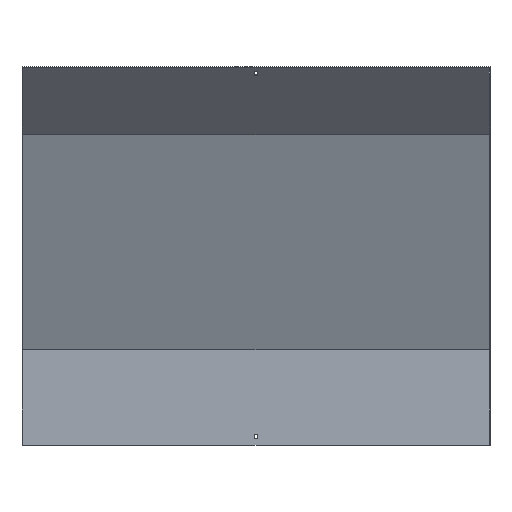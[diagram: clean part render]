
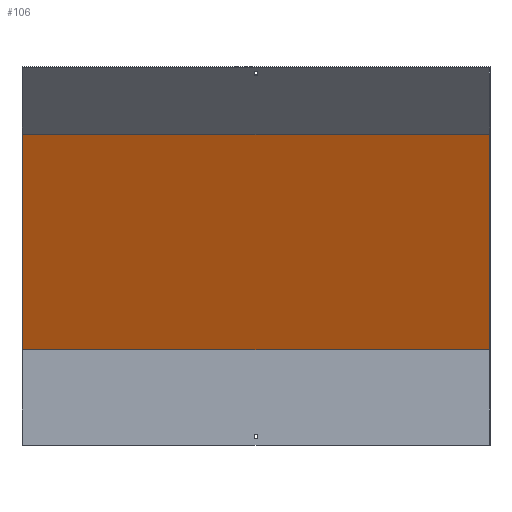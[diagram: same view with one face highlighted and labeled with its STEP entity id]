
A CAD part, front view. The second image highlights one B-rep face of the part: STEP entity #106.
In plain terms, the highlighted planar face has unit normal (0, -0.924, -0.383).
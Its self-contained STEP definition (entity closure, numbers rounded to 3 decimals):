
#5 = ORIENTED_EDGE ( 'NONE', *, *, #416, .F. ) ;
#20 = VERTEX_POINT ( 'NONE', #810 ) ;
#45 = FACE_OUTER_BOUND ( 'NONE', #695, .T. ) ;
#106 = ADVANCED_FACE ( 'NONE', ( #45 ), #439, .T. ) ;
#117 = DIRECTION ( 'NONE',  ( -1., 0., 0. ) ) ;
#155 = ORIENTED_EDGE ( 'NONE', *, *, #190, .T. ) ;
#190 = EDGE_CURVE ( 'NONE', #266, #20, #587, .T. ) ;
#191 = VECTOR ( 'NONE', #117, 1000. ) ;
#264 = CARTESIAN_POINT ( 'NONE',  ( 451.5, 18.5, 183.68 ) ) ;
#266 = VERTEX_POINT ( 'NONE', #286 ) ;
#286 = CARTESIAN_POINT ( 'NONE',  ( 450., -153.463, 598.834 ) ) ;
#303 = AXIS2_PLACEMENT_3D ( 'NONE', #715, #318, #707 ) ;
#318 = DIRECTION ( 'NONE',  ( 0., -0.924, -0.383 ) ) ;
#361 = ORIENTED_EDGE ( 'NONE', *, *, #801, .T. ) ;
#387 = EDGE_CURVE ( 'NONE', #511, #698, #449, .T. ) ;
#395 = DIRECTION ( 'NONE',  ( 0., -0.383, 0.924 ) ) ;
#416 = EDGE_CURVE ( 'NONE', #698, #20, #645, .T. ) ;
#439 = PLANE ( 'NONE',  #303 ) ;
#449 = LINE ( 'NONE', #264, #191 ) ;
#490 = LINE ( 'NONE', #549, #743 ) ;
#504 = CARTESIAN_POINT ( 'NONE',  ( -450., 18.5, 183.68 ) ) ;
#511 = VERTEX_POINT ( 'NONE', #756 ) ;
#549 = CARTESIAN_POINT ( 'NONE',  ( 450., 80.731, 33.44 ) ) ;
#587 = LINE ( 'NONE', #641, #809 ) ;
#641 = CARTESIAN_POINT ( 'NONE',  ( 451.5, -153.463, 598.834 ) ) ;
#645 = LINE ( 'NONE', #718, #787 ) ;
#649 = DIRECTION ( 'NONE',  ( -1., 0., 0. ) ) ;
#683 = DIRECTION ( 'NONE',  ( 0., -0.383, 0.924 ) ) ;
#695 = EDGE_LOOP ( 'NONE', ( #5, #722, #361, #155 ) ) ;
#698 = VERTEX_POINT ( 'NONE', #504 ) ;
#707 = DIRECTION ( 'NONE',  ( 0., 0.383, -0.924 ) ) ;
#715 = CARTESIAN_POINT ( 'NONE',  ( 451.5, 17.092, 187.08 ) ) ;
#718 = CARTESIAN_POINT ( 'NONE',  ( -450., 80.731, 33.44 ) ) ;
#722 = ORIENTED_EDGE ( 'NONE', *, *, #387, .F. ) ;
#743 = VECTOR ( 'NONE', #683, 1000. ) ;
#756 = CARTESIAN_POINT ( 'NONE',  ( 450., 18.5, 183.68 ) ) ;
#787 = VECTOR ( 'NONE', #395, 1000. ) ;
#801 = EDGE_CURVE ( 'NONE', #511, #266, #490, .T. ) ;
#809 = VECTOR ( 'NONE', #649, 1000. ) ;
#810 = CARTESIAN_POINT ( 'NONE',  ( -450., -153.463, 598.834 ) ) ;
